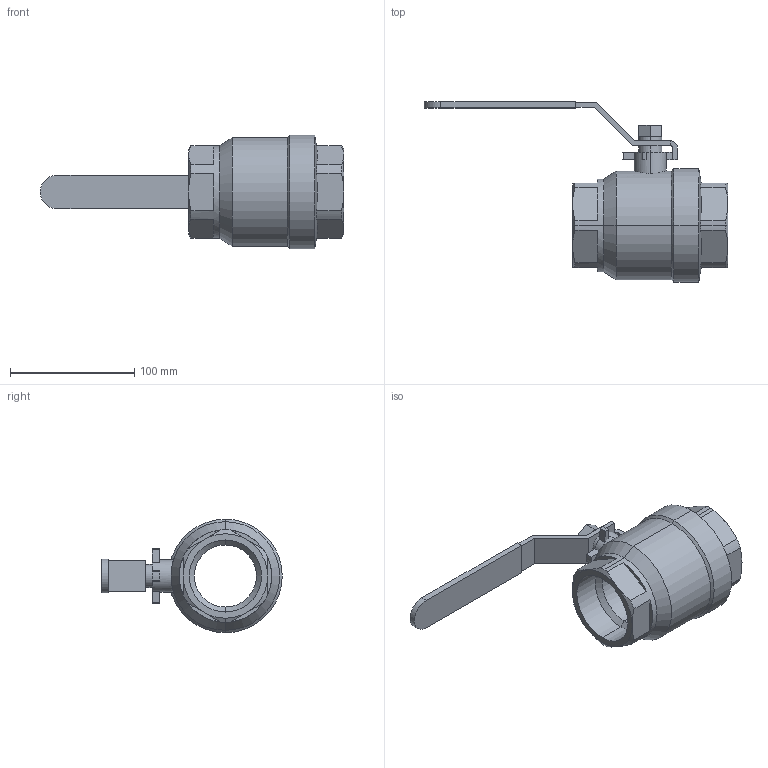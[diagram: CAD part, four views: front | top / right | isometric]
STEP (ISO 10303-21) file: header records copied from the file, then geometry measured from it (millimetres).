
FILE_DESCRIPTION (( 'STEP AP203' ), '1' );
FILE_NAME ('B3.622I050XFVPB0.STEP', '2018-12-14T12:30:23', ( 'dell2' ), ( 'Microsoft' ), 'SwSTEP 2.0', 'SolidWorks 2017', '' );
FILE_SCHEMA (( 'CONFIG_CONTROL_DESIGN' ));
Length unit declared in the file: millimetre
Products named in the file (1): B3.622I050XFVPB0
Bounding box: 244.5 x 145.25 x 91.5 mm (x, y, z)
Volume: 422152.7 mm3; surface area: 75360.2 mm2
Topology: 1 solids, 1 shells, 118 faces, 293 edges, 183 vertices
Faces by surface type: plane 61, cylinder 33, cone 24
Entity records: 3793 total; most frequent: CARTESIAN_POINT 891, DIRECTION 598, ORIENTED_EDGE 586, EDGE_CURVE 293, AXIS2_PLACEMENT_3D 218, VERTEX_POINT 183, LINE 162, VECTOR 162
